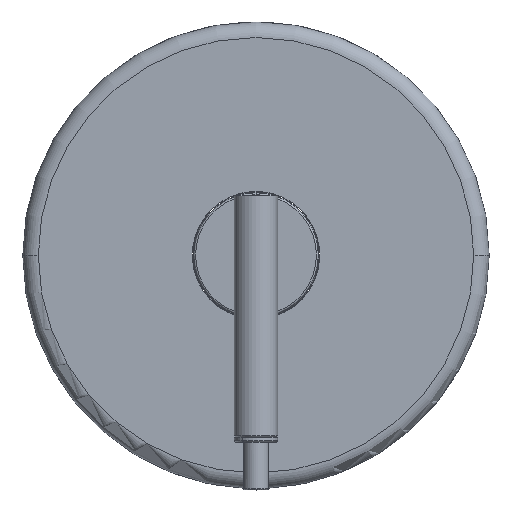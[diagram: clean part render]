
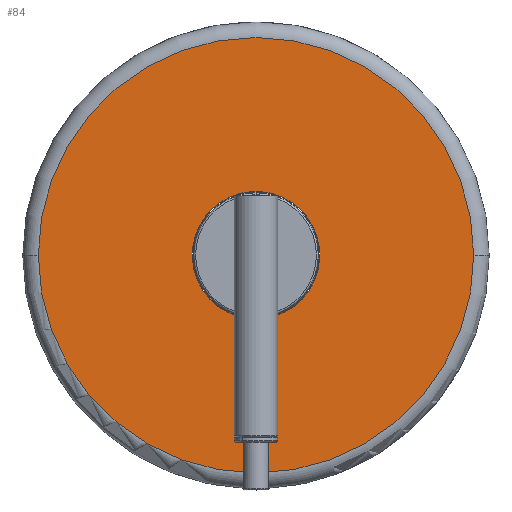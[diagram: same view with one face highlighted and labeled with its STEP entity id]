
A CAD part, top view. The second image highlights one B-rep face of the part: STEP entity #84.
In plain terms, the highlighted planar face has unit normal (0, 0, 1).
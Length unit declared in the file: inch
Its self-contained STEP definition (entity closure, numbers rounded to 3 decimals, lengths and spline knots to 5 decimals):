
#84 = ADVANCED_FACE ( 'NONE', ( #2727, #4056 ), #1054, .T. ) ;
#94 = LINE ( 'NONE', #3470, #3551 ) ;
#103 = DIRECTION ( 'NONE',  ( 0., 0., 1. ) ) ;
#160 = EDGE_LOOP ( 'NONE', ( #2094, #2703 ) ) ;
#250 = VERTEX_POINT ( 'NONE', #2503 ) ;
#274 = CIRCLE ( 'NONE', #831, 0.1275 ) ;
#306 = CARTESIAN_POINT ( 'NONE',  ( 0., 0., 0. ) ) ;
#339 = AXIS2_PLACEMENT_3D ( 'NONE', #1094, #2399, #731 ) ;
#428 = ORIENTED_EDGE ( 'NONE', *, *, #4023, .F. ) ;
#614 = CIRCLE ( 'NONE', #3121, 3.5 ) ;
#731 = DIRECTION ( 'NONE',  ( 1., 0., 0. ) ) ;
#763 = AXIS2_PLACEMENT_3D ( 'NONE', #2594, #3989, #2281 ) ;
#786 = DIRECTION ( 'NONE',  ( 0., 1., 0. ) ) ;
#831 = AXIS2_PLACEMENT_3D ( 'NONE', #3518, #103, #3845 ) ;
#843 = EDGE_CURVE ( 'NONE', #4063, #1216, #1514, .T. ) ;
#996 = EDGE_CURVE ( 'NONE', #4237, #1992, #614, .T. ) ;
#1054 = PLANE ( 'NONE',  #339 ) ;
#1094 = CARTESIAN_POINT ( 'NONE',  ( 0., 0., 0. ) ) ;
#1097 = VECTOR ( 'NONE', #786, 39.37008 ) ;
#1140 = DIRECTION ( 'NONE',  ( 0., 0., 1. ) ) ;
#1184 = DIRECTION ( 'NONE',  ( 1., 0., 0. ) ) ;
#1216 = VERTEX_POINT ( 'NONE', #1443 ) ;
#1292 = CARTESIAN_POINT ( 'NONE',  ( -3.5, 0., 0. ) ) ;
#1443 = CARTESIAN_POINT ( 'NONE',  ( -0.1275, -1.01754, 0. ) ) ;
#1514 = CIRCLE ( 'NONE', #3476, 1.0255 ) ;
#1555 = CARTESIAN_POINT ( 'NONE',  ( 3.5, 0., 0. ) ) ;
#1764 = DIRECTION ( 'NONE',  ( 0., -1., 0. ) ) ;
#1838 = ORIENTED_EDGE ( 'NONE', *, *, #3675, .F. ) ;
#1865 = DIRECTION ( 'NONE',  ( 0., 0., 1. ) ) ;
#1992 = VERTEX_POINT ( 'NONE', #1555 ) ;
#2094 = ORIENTED_EDGE ( 'NONE', *, *, #4248, .T. ) ;
#2137 = CARTESIAN_POINT ( 'NONE',  ( 0.1275, -1.01754, 0. ) ) ;
#2155 = DIRECTION ( 'NONE',  ( 1., 0., 0. ) ) ;
#2203 = EDGE_CURVE ( 'NONE', #4029, #250, #274, .T. ) ;
#2281 = DIRECTION ( 'NONE',  ( 1., 0., 0. ) ) ;
#2399 = DIRECTION ( 'NONE',  ( 0., 0., 1. ) ) ;
#2503 = CARTESIAN_POINT ( 'NONE',  ( 0.1275, -1.27, 0. ) ) ;
#2539 = ORIENTED_EDGE ( 'NONE', *, *, #843, .F. ) ;
#2594 = CARTESIAN_POINT ( 'NONE',  ( 0., 0., 0. ) ) ;
#2703 = ORIENTED_EDGE ( 'NONE', *, *, #996, .T. ) ;
#2727 = FACE_BOUND ( 'NONE', #3032, .T. ) ;
#2758 = LINE ( 'NONE', #2137, #1097 ) ;
#3032 = EDGE_LOOP ( 'NONE', ( #1838, #4213, #428, #2539 ) ) ;
#3053 = CARTESIAN_POINT ( 'NONE',  ( -0.1275, -1.27, 0. ) ) ;
#3097 = CARTESIAN_POINT ( 'NONE',  ( 0., 0., 0. ) ) ;
#3121 = AXIS2_PLACEMENT_3D ( 'NONE', #306, #1865, #1184 ) ;
#3177 = CARTESIAN_POINT ( 'NONE',  ( 0.1275, -1.01754, 0. ) ) ;
#3470 = CARTESIAN_POINT ( 'NONE',  ( -0.1275, -1.01754, 0. ) ) ;
#3476 = AXIS2_PLACEMENT_3D ( 'NONE', #3097, #1140, #2155 ) ;
#3518 = CARTESIAN_POINT ( 'NONE',  ( 0., -1.27, 0. ) ) ;
#3551 = VECTOR ( 'NONE', #1764, 39.37008 ) ;
#3675 = EDGE_CURVE ( 'NONE', #250, #4063, #2758, .T. ) ;
#3845 = DIRECTION ( 'NONE',  ( 1., 0., 0. ) ) ;
#3989 = DIRECTION ( 'NONE',  ( 0., 0., 1. ) ) ;
#4023 = EDGE_CURVE ( 'NONE', #1216, #4029, #94, .T. ) ;
#4029 = VERTEX_POINT ( 'NONE', #3053 ) ;
#4056 = FACE_OUTER_BOUND ( 'NONE', #160, .T. ) ;
#4063 = VERTEX_POINT ( 'NONE', #3177 ) ;
#4182 = CIRCLE ( 'NONE', #763, 3.5 ) ;
#4213 = ORIENTED_EDGE ( 'NONE', *, *, #2203, .F. ) ;
#4237 = VERTEX_POINT ( 'NONE', #1292 ) ;
#4248 = EDGE_CURVE ( 'NONE', #1992, #4237, #4182, .T. ) ;
